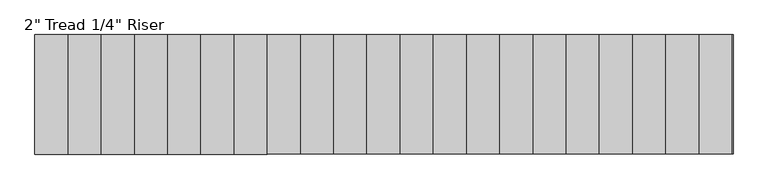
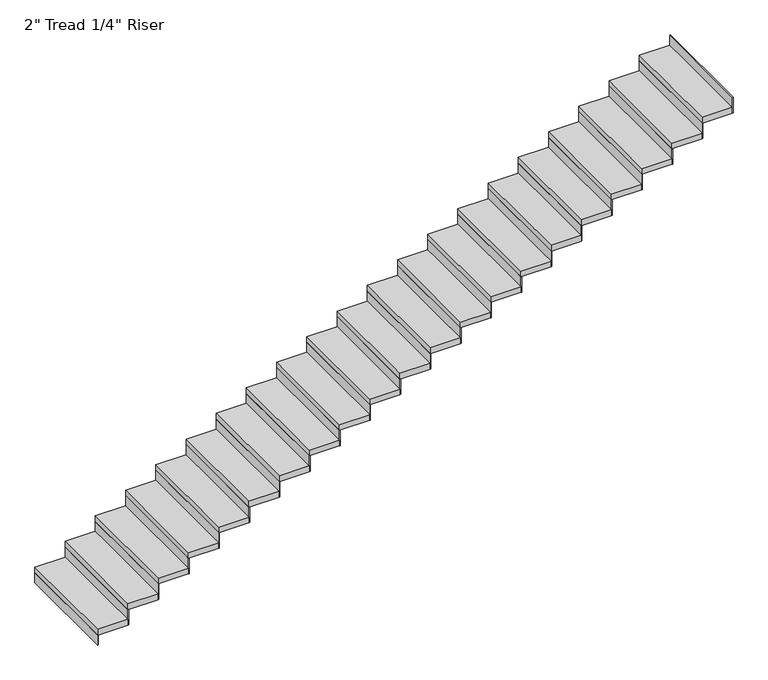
"""IFC4 building model written with IfcOpenShell, lengths in millimetres: stair flight geometry."""

from ifc_helpers import new_model, si_unit, frame, origin, origin_with_axes, place, context, project, spatial, polyline, outline, extrude, source, transform, mapped, element, save


def stair_flight_8e8130a2(model_context):
    return source(origin(), model_context, "Body", "SweptSolid", [
        extrude(outline(polyline([(-14491.7664794, -70024.4426165), (-14498.1164794, -70024.4426165), (-14498.1164794, -69110.0426165), (-14491.7664794, -69110.0426165), (-14491.7664794, -70024.4426165)])), origin_with_axes(), (0.0, 0.0, 1.0), 87.7454545),
        extrude(outline(polyline([(-14244.1164794, -69110.0426165), (-14244.1164794, -70024.4426165), (-14498.1164794, -70024.4426165), (-14498.1164794, -69110.0426165), (-14244.1164794, -69110.0426165)])), frame((0.0, 0.0, 87.7454545), z_axis=(0.0, 0.0, 1.0), x_axis=(1.0, 0.0, 0.0)), (0.0, 0.0, 1.0), 50.8),
        extrude(outline(polyline([(-14237.7664794, -70024.4426165), (-14244.1164794, -70024.4426165), (-14244.1164794, -69110.0426165), (-14237.7664794, -69110.0426165), (-14237.7664794, -70024.4426165)])), frame((0.0, 0.0, 87.7454545), z_axis=(0.0, 0.0, 1.0), x_axis=(1.0, 0.0, 0.0)), (0.0, 0.0, 1.0), 138.5454545),
        extrude(outline(polyline([(-13990.1164794, -69110.0426165), (-13990.1164794, -70024.4426165), (-14244.1164794, -70024.4426165), (-14244.1164794, -69110.0426165), (-13990.1164794, -69110.0426165)])), frame((0.0, 0.0, 226.2909091), z_axis=(0.0, 0.0, 1.0), x_axis=(1.0, 0.0, 0.0)), (0.0, 0.0, 1.0), 50.8),
        extrude(outline(polyline([(-13983.7664794, -70024.4426165), (-13990.1164794, -70024.4426165), (-13990.1164794, -69110.0426165), (-13983.7664794, -69110.0426165), (-13983.7664794, -70024.4426165)])), frame((0.0, 0.0, 226.2909091), z_axis=(0.0, 0.0, 1.0), x_axis=(1.0, 0.0, 0.0)), (0.0, 0.0, 1.0), 138.5454545),
        extrude(outline(polyline([(-13736.1164794, -69110.0426165), (-13736.1164794, -70024.4426165), (-13990.1164794, -70024.4426165), (-13990.1164794, -69110.0426165), (-13736.1164794, -69110.0426165)])), frame((0.0, 0.0, 364.8363636), z_axis=(0.0, 0.0, 1.0), x_axis=(1.0, 0.0, 0.0)), (0.0, 0.0, 1.0), 50.8),
        extrude(outline(polyline([(-13729.7664794, -70024.4426165), (-13736.1164794, -70024.4426165), (-13736.1164794, -69110.0426165), (-13729.7664794, -69110.0426165), (-13729.7664794, -70024.4426165)])), frame((0.0, 0.0, 364.8363636), z_axis=(0.0, 0.0, 1.0), x_axis=(1.0, 0.0, 0.0)), (0.0, 0.0, 1.0), 138.5454545),
        extrude(outline(polyline([(-13482.1164794, -69110.0426165), (-13482.1164794, -70024.4426165), (-13736.1164794, -70024.4426165), (-13736.1164794, -69110.0426165), (-13482.1164794, -69110.0426165)])), frame((0.0, 0.0, 503.3818182), z_axis=(0.0, 0.0, 1.0), x_axis=(1.0, 0.0, 0.0)), (0.0, 0.0, 1.0), 50.8),
        extrude(outline(polyline([(-13475.7664794, -70024.4426165), (-13482.1164794, -70024.4426165), (-13482.1164794, -69110.0426165), (-13475.7664794, -69110.0426165), (-13475.7664794, -70024.4426165)])), frame((0.0, 0.0, 503.3818182), z_axis=(0.0, 0.0, 1.0), x_axis=(1.0, 0.0, 0.0)), (0.0, 0.0, 1.0), 138.5454545),
        extrude(outline(polyline([(-13228.1164794, -69110.0426165), (-13228.1164794, -70024.4426165), (-13482.1164794, -70024.4426165), (-13482.1164794, -69110.0426165), (-13228.1164794, -69110.0426165)])), frame((0.0, 0.0, 641.9272727), z_axis=(0.0, 0.0, 1.0), x_axis=(1.0, 0.0, 0.0)), (0.0, 0.0, 1.0), 50.8),
        extrude(outline(polyline([(-13221.7664794, -70024.4426165), (-13228.1164794, -70024.4426165), (-13228.1164794, -69110.0426165), (-13221.7664794, -69110.0426165), (-13221.7664794, -70024.4426165)])), frame((0.0, 0.0, 641.9272727), z_axis=(0.0, 0.0, 1.0), x_axis=(1.0, 0.0, 0.0)), (0.0, 0.0, 1.0), 138.5454545),
        extrude(outline(polyline([(-12974.1164794, -69110.0426165), (-12974.1164794, -70024.4426165), (-13228.1164794, -70024.4426165), (-13228.1164794, -69110.0426165), (-12974.1164794, -69110.0426165)])), frame((0.0, 0.0, 780.4727273), z_axis=(0.0, 0.0, 1.0), x_axis=(1.0, 0.0, 0.0)), (0.0, 0.0, 1.0), 50.8),
        extrude(outline(polyline([(-12967.7664794, -70024.4426165), (-12974.1164794, -70024.4426165), (-12974.1164794, -69110.0426165), (-12967.7664794, -69110.0426165), (-12967.7664794, -70024.4426165)])), frame((0.0, 0.0, 780.4727273), z_axis=(0.0, 0.0, 1.0), x_axis=(1.0, 0.0, 0.0)), (0.0, 0.0, 1.0), 138.5454545),
        extrude(outline(polyline([(-12720.1164794, -69110.0426165), (-12720.1164794, -70024.4426165), (-12974.1164794, -70024.4426165), (-12974.1164794, -69110.0426165), (-12720.1164794, -69110.0426165)])), frame((0.0, 0.0, 919.0181818), z_axis=(0.0, 0.0, 1.0), x_axis=(1.0, 0.0, 0.0)), (0.0, 0.0, 1.0), 50.8),
        extrude(outline(polyline([(-12713.7664794, -70024.4426165), (-12720.1164794, -70024.4426165), (-12720.1164794, -69110.0426165), (-12713.7664794, -69110.0426165), (-12713.7664794, -70024.4426165)])), frame((0.0, 0.0, 919.0181818), z_axis=(0.0, 0.0, 1.0), x_axis=(1.0, 0.0, 0.0)), (0.0, 0.0, 1.0), 138.5454545),
        extrude(outline(polyline([(-12466.1164794, -69110.0426165), (-12466.1164794, -70024.4426165), (-12720.1164794, -70024.4426165), (-12720.1164794, -69110.0426165), (-12466.1164794, -69110.0426165)])), frame((0.0, 0.0, 1057.5636364), z_axis=(0.0, 0.0, 1.0), x_axis=(1.0, 0.0, 0.0)), (0.0, 0.0, 1.0), 50.8),
        extrude(outline(polyline([(-12459.7664794, -70024.4426165), (-12466.1164794, -70024.4426165), (-12466.1164794, -69110.0426165), (-12459.7664794, -69110.0426165), (-12459.7664794, -70024.4426165)])), frame((0.0, 0.0, 1057.5636364), z_axis=(0.0, 0.0, 1.0), x_axis=(1.0, 0.0, 0.0)), (0.0, 0.0, 1.0), 138.5454545),
        extrude(outline(polyline([(-12212.1164794, -69110.0426165), (-12212.1164794, -70024.4426165), (-12466.1164794, -70024.4426165), (-12466.1164794, -69110.0426165), (-12212.1164794, -69110.0426165)])), frame((0.0, 0.0, 1196.1090909), z_axis=(0.0, 0.0, 1.0), x_axis=(1.0, 0.0, 0.0)), (0.0, 0.0, 1.0), 50.8),
        extrude(outline(polyline([(-12205.7664794, -70024.4426165), (-12212.1164794, -70024.4426165), (-12212.1164794, -69110.0426165), (-12205.7664794, -69110.0426165), (-12205.7664794, -70024.4426165)])), frame((0.0, 0.0, 1196.1090909), z_axis=(0.0, 0.0, 1.0), x_axis=(1.0, 0.0, 0.0)), (0.0, 0.0, 1.0), 138.5454545),
        extrude(outline(polyline([(-11958.1164794, -69110.0426165), (-11958.1164794, -70024.4426165), (-12212.1164794, -70024.4426165), (-12212.1164794, -69110.0426165), (-11958.1164794, -69110.0426165)])), frame((0.0, 0.0, 1334.6545455), z_axis=(0.0, 0.0, 1.0), x_axis=(1.0, 0.0, 0.0)), (0.0, 0.0, 1.0), 50.8),
        extrude(outline(polyline([(-11951.7664794, -70024.4426165), (-11958.1164794, -70024.4426165), (-11958.1164794, -69110.0426165), (-11951.7664794, -69110.0426165), (-11951.7664794, -70024.4426165)])), frame((0.0, 0.0, 1334.6545455), z_axis=(0.0, 0.0, 1.0), x_axis=(1.0, 0.0, 0.0)), (0.0, 0.0, 1.0), 138.5454545),
        extrude(outline(polyline([(-11704.1164794, -69110.0426165), (-11704.1164794, -70024.4426165), (-11958.1164794, -70024.4426165), (-11958.1164794, -69110.0426165), (-11704.1164794, -69110.0426165)])), frame((0.0, 0.0, 1473.2), z_axis=(0.0, 0.0, 1.0), x_axis=(1.0, 0.0, 0.0)), (0.0, 0.0, 1.0), 50.8),
        extrude(outline(polyline([(-11697.7664794, -70024.4426165), (-11704.1164794, -70024.4426165), (-11704.1164794, -69110.0426165), (-11697.7664794, -69110.0426165), (-11697.7664794, -70024.4426165)])), frame((0.0, 0.0, 1473.2), z_axis=(0.0, 0.0, 1.0), x_axis=(1.0, 0.0, 0.0)), (0.0, 0.0, 1.0), 138.5454545),
        extrude(outline(polyline([(-11450.1164794, -69110.0426165), (-11450.1164794, -70024.4426165), (-11704.1164794, -70024.4426165), (-11704.1164794, -69110.0426165), (-11450.1164794, -69110.0426165)])), frame((0.0, 0.0, 1611.7454545), z_axis=(0.0, 0.0, 1.0), x_axis=(1.0, 0.0, 0.0)), (0.0, 0.0, 1.0), 50.8),
        extrude(outline(polyline([(-11443.7664794, -70024.4426165), (-11450.1164794, -70024.4426165), (-11450.1164794, -69110.0426165), (-11443.7664794, -69110.0426165), (-11443.7664794, -70024.4426165)])), frame((0.0, 0.0, 1611.7454545), z_axis=(0.0, 0.0, 1.0), x_axis=(1.0, 0.0, 0.0)), (0.0, 0.0, 1.0), 138.5454545),
        extrude(outline(polyline([(-11196.1164794, -69110.0426165), (-11196.1164794, -70024.4426165), (-11450.1164794, -70024.4426165), (-11450.1164794, -69110.0426165), (-11196.1164794, -69110.0426165)])), frame((0.0, 0.0, 1750.2909091), z_axis=(0.0, 0.0, 1.0), x_axis=(1.0, 0.0, 0.0)), (0.0, 0.0, 1.0), 50.8),
        extrude(outline(polyline([(-11189.7664794, -70024.4426165), (-11196.1164794, -70024.4426165), (-11196.1164794, -69110.0426165), (-11189.7664794, -69110.0426165), (-11189.7664794, -70024.4426165)])), frame((0.0, 0.0, 1750.2909091), z_axis=(0.0, 0.0, 1.0), x_axis=(1.0, 0.0, 0.0)), (0.0, 0.0, 1.0), 138.5454545),
        extrude(outline(polyline([(-10942.1164794, -69110.0426165), (-10942.1164794, -70024.4426165), (-11196.1164794, -70024.4426165), (-11196.1164794, -69110.0426165), (-10942.1164794, -69110.0426165)])), frame((0.0, 0.0, 1888.8363636), z_axis=(0.0, 0.0, 1.0), x_axis=(1.0, 0.0, 0.0)), (0.0, 0.0, 1.0), 50.8),
        extrude(outline(polyline([(-10935.7664794, -70024.4426165), (-10942.1164794, -70024.4426165), (-10942.1164794, -69110.0426165), (-10935.7664794, -69110.0426165), (-10935.7664794, -70024.4426165)])), frame((0.0, 0.0, 1888.8363636), z_axis=(0.0, 0.0, 1.0), x_axis=(1.0, 0.0, 0.0)), (0.0, 0.0, 1.0), 138.5454545),
        extrude(outline(polyline([(-10688.1164794, -69110.0426165), (-10688.1164794, -70024.4426165), (-10942.1164794, -70024.4426165), (-10942.1164794, -69110.0426165), (-10688.1164794, -69110.0426165)])), frame((0.0, 0.0, 2027.3818182), z_axis=(0.0, 0.0, 1.0), x_axis=(1.0, 0.0, 0.0)), (0.0, 0.0, 1.0), 50.8),
        extrude(outline(polyline([(-10681.7664794, -70024.4426165), (-10688.1164794, -70024.4426165), (-10688.1164794, -69110.0426165), (-10681.7664794, -69110.0426165), (-10681.7664794, -70024.4426165)])), frame((0.0, 0.0, 2027.3818182), z_axis=(0.0, 0.0, 1.0), x_axis=(1.0, 0.0, 0.0)), (0.0, 0.0, 1.0), 138.5454545),
        extrude(outline(polyline([(-10434.1164794, -69110.0426165), (-10434.1164794, -70024.4426165), (-10688.1164794, -70024.4426165), (-10688.1164794, -69110.0426165), (-10434.1164794, -69110.0426165)])), frame((0.0, 0.0, 2165.9272727), z_axis=(0.0, 0.0, 1.0), x_axis=(1.0, 0.0, 0.0)), (0.0, 0.0, 1.0), 50.8),
        extrude(outline(polyline([(-10427.7664794, -70024.4426165), (-10434.1164794, -70024.4426165), (-10434.1164794, -69110.0426165), (-10427.7664794, -69110.0426165), (-10427.7664794, -70024.4426165)])), frame((0.0, 0.0, 2165.9272727), z_axis=(0.0, 0.0, 1.0), x_axis=(1.0, 0.0, 0.0)), (0.0, 0.0, 1.0), 138.5454545),
        extrude(outline(polyline([(-10180.1164794, -69110.0426165), (-10180.1164794, -70024.4426165), (-10434.1164794, -70024.4426165), (-10434.1164794, -69110.0426165), (-10180.1164794, -69110.0426165)])), frame((0.0, 0.0, 2304.4727273), z_axis=(0.0, 0.0, 1.0), x_axis=(1.0, 0.0, 0.0)), (0.0, 0.0, 1.0), 50.8),
        extrude(outline(polyline([(-10173.7664794, -70024.4426165), (-10180.1164794, -70024.4426165), (-10180.1164794, -69110.0426165), (-10173.7664794, -69110.0426165), (-10173.7664794, -70024.4426165)])), frame((0.0, 0.0, 2304.4727273), z_axis=(0.0, 0.0, 1.0), x_axis=(1.0, 0.0, 0.0)), (0.0, 0.0, 1.0), 138.5454545),
        extrude(outline(polyline([(-9926.1164794, -69110.0426165), (-9926.1164794, -70024.4426165), (-10180.1164794, -70024.4426165), (-10180.1164794, -69110.0426165), (-9926.1164794, -69110.0426165)])), frame((0.0, 0.0, 2443.0181818), z_axis=(0.0, 0.0, 1.0), x_axis=(1.0, 0.0, 0.0)), (0.0, 0.0, 1.0), 50.8),
        extrude(outline(polyline([(-9919.7664794, -70024.4426165), (-9926.1164794, -70024.4426165), (-9926.1164794, -69110.0426165), (-9919.7664794, -69110.0426165), (-9919.7664794, -70024.4426165)])), frame((0.0, 0.0, 2443.0181818), z_axis=(0.0, 0.0, 1.0), x_axis=(1.0, 0.0, 0.0)), (0.0, 0.0, 1.0), 138.5454545),
        extrude(outline(polyline([(-9672.1164794, -69110.0426165), (-9672.1164794, -70024.4426165), (-9926.1164794, -70024.4426165), (-9926.1164794, -69110.0426165), (-9672.1164794, -69110.0426165)])), frame((0.0, 0.0, 2581.5636364), z_axis=(0.0, 0.0, 1.0), x_axis=(1.0, 0.0, 0.0)), (0.0, 0.0, 1.0), 50.8),
        extrude(outline(polyline([(-9665.7664794, -70024.4426165), (-9672.1164794, -70024.4426165), (-9672.1164794, -69110.0426165), (-9665.7664794, -69110.0426165), (-9665.7664794, -70024.4426165)])), frame((0.0, 0.0, 2581.5636364), z_axis=(0.0, 0.0, 1.0), x_axis=(1.0, 0.0, 0.0)), (0.0, 0.0, 1.0), 138.5454545),
        extrude(outline(polyline([(-9418.1164794, -69110.0426165), (-9418.1164794, -70024.4426165), (-9672.1164794, -70024.4426165), (-9672.1164794, -69110.0426165), (-9418.1164794, -69110.0426165)])), frame((0.0, 0.0, 2720.1090909), z_axis=(0.0, 0.0, 1.0), x_axis=(1.0, 0.0, 0.0)), (0.0, 0.0, 1.0), 50.8),
        extrude(outline(polyline([(-9411.7664794, -70024.4426165), (-9418.1164794, -70024.4426165), (-9418.1164794, -69110.0426165), (-9411.7664794, -69110.0426165), (-9411.7664794, -70024.4426165)])), frame((0.0, 0.0, 2720.1090909), z_axis=(0.0, 0.0, 1.0), x_axis=(1.0, 0.0, 0.0)), (0.0, 0.0, 1.0), 138.5454545),
        extrude(outline(polyline([(-9157.7664794, -70024.4426165), (-9164.1164794, -70024.4426165), (-9164.1164794, -69110.0426165), (-9157.7664794, -69110.0426165), (-9157.7664794, -70024.4426165)])), frame((0.0, 0.0, 2858.6545455), z_axis=(0.0, 0.0, 1.0), x_axis=(1.0, 0.0, 0.0)), (0.0, 0.0, 1.0), 138.5454545),
        extrude(outline(polyline([(-9164.1164794, -69110.0426165), (-9164.1164794, -70024.4426165), (-9418.1164794, -70024.4426165), (-9418.1164794, -69110.0426165), (-9164.1164794, -69110.0426165)])), frame((0.0, 0.0, 2858.6545455), z_axis=(0.0, 0.0, 1.0), x_axis=(1.0, 0.0, 0.0)), (0.0, 0.0, 1.0), 50.8),
    ])


if __name__ == "__main__":
    model = new_model("IFC4")
    model_context = context("Model", 3, world=origin())
    ifc_project = project(units=[si_unit("LENGTHUNIT", "METRE", prefix="MILLI")], contexts=[model_context])
    site = spatial("IfcSite", under=ifc_project)
    building = spatial("IfcBuilding", under=site)
    placement = place(None, origin())
    stair_flight_shape = stair_flight_8e8130a2(model_context)
    element("IfcStairFlight", 1, ObjectType="2\" Tread 1/4\" Riser", at=placement, inside=building, context=model_context, shape_type="MappedRepresentation", body=[
        mapped(stair_flight_shape, transform((0.0, 0.0, 0.0), x_axis=(1.0, 0.0, 0.0), y_axis=(0.0, 1.0, 0.0), z_axis=(0.0, 0.0, 1.0))),
    ])
    save(model, "model.ifc")
